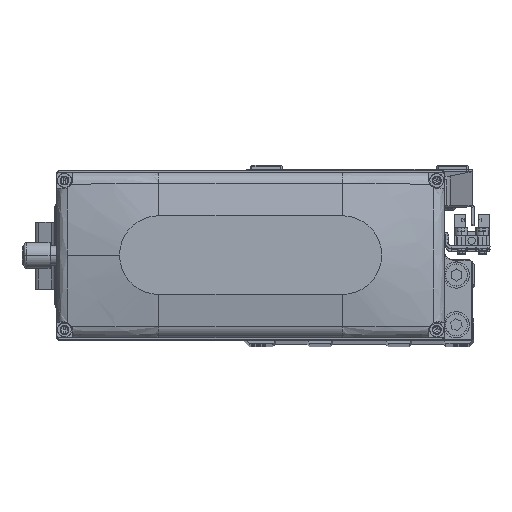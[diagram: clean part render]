
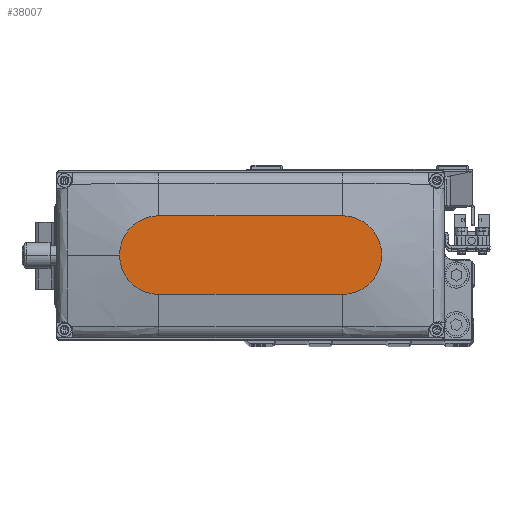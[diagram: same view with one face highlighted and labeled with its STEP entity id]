
A CAD part, top view. The second image highlights one B-rep face of the part: STEP entity #38007.
In plain terms, the highlighted planar face has unit normal (0, 0, 1).
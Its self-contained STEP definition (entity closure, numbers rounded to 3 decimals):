
#748 = DIRECTION ( 'NONE',  ( 1., 0., 0. ) ) ;
#982 = VERTEX_POINT ( 'NONE', #19645 ) ;
#3961 = VERTEX_POINT ( 'NONE', #34379 ) ;
#4483 = PLANE ( 'NONE',  #32718 ) ;
#7877 = CARTESIAN_POINT ( 'NONE',  ( -35., 15., 35. ) ) ;
#10798 = VERTEX_POINT ( 'NONE', #7877 ) ;
#10949 = CARTESIAN_POINT ( 'NONE',  ( 35., -15., 35. ) ) ;
#13249 = DIRECTION ( 'NONE',  ( 0., 0., 1. ) ) ;
#14194 = DIRECTION ( 'NONE',  ( 0., 0., 1. ) ) ;
#14421 = DIRECTION ( 'NONE',  ( 0., 0., 1. ) ) ;
#14711 = LINE ( 'NONE', #29905, #19675 ) ;
#15463 = LINE ( 'NONE', #30664, #20780 ) ;
#16194 = CIRCLE ( 'NONE', #44071, 15. ) ;
#18026 = EDGE_CURVE ( 'NONE', #10798, #982, #46707, .T. ) ;
#19645 = CARTESIAN_POINT ( 'NONE',  ( -35., -15., 35. ) ) ;
#19675 = VECTOR ( 'NONE', #45136, 1000. ) ;
#19687 = CARTESIAN_POINT ( 'NONE',  ( 0., 0., 35. ) ) ;
#19853 = ORIENTED_EDGE ( 'NONE', *, *, #18026, .T. ) ;
#20320 = EDGE_CURVE ( 'NONE', #3961, #38796, #21366, .T. ) ;
#20399 = VERTEX_POINT ( 'NONE', #10949 ) ;
#20780 = VECTOR ( 'NONE', #45885, 1000. ) ;
#21366 = CIRCLE ( 'NONE', #49240, 15. ) ;
#25204 = AXIS2_PLACEMENT_3D ( 'NONE', #47423, #13249, #28453 ) ;
#27134 = CARTESIAN_POINT ( 'NONE',  ( 35., 15., 35. ) ) ;
#28453 = DIRECTION ( 'NONE',  ( 1., 0., 0. ) ) ;
#28460 = ORIENTED_EDGE ( 'NONE', *, *, #36642, .T. ) ;
#29209 = ORIENTED_EDGE ( 'NONE', *, *, #30785, .T. ) ;
#29403 = DIRECTION ( 'NONE',  ( 1., 0., 0. ) ) ;
#29625 = DIRECTION ( 'NONE',  ( 1., 0., 0. ) ) ;
#29905 = CARTESIAN_POINT ( 'NONE',  ( -35., 15., 35. ) ) ;
#30664 = CARTESIAN_POINT ( 'NONE',  ( -35., -15., 35. ) ) ;
#30785 = EDGE_CURVE ( 'NONE', #982, #20399, #15463, .T. ) ;
#32718 = AXIS2_PLACEMENT_3D ( 'NONE', #19687, #34888, #748 ) ;
#34379 = CARTESIAN_POINT ( 'NONE',  ( 50., 0., 35. ) ) ;
#34523 = ORIENTED_EDGE ( 'NONE', *, *, #45899, .T. ) ;
#34888 = DIRECTION ( 'NONE',  ( 0., 0., 1. ) ) ;
#36642 = EDGE_CURVE ( 'NONE', #38796, #10798, #14711, .T. ) ;
#38007 = ADVANCED_FACE ( 'NONE', ( #38625 ), #4483, .T. ) ;
#38625 = FACE_OUTER_BOUND ( 'NONE', #42625, .T. ) ;
#38796 = VERTEX_POINT ( 'NONE', #27134 ) ;
#42625 = EDGE_LOOP ( 'NONE', ( #28460, #19853, #29209, #34523, #45471 ) ) ;
#44071 = AXIS2_PLACEMENT_3D ( 'NONE', #48598, #14421, #29625 ) ;
#45136 = DIRECTION ( 'NONE',  ( -1., 0., 0. ) ) ;
#45471 = ORIENTED_EDGE ( 'NONE', *, *, #20320, .T. ) ;
#45885 = DIRECTION ( 'NONE',  ( 1., 0., 0. ) ) ;
#45899 = EDGE_CURVE ( 'NONE', #20399, #3961, #16194, .T. ) ;
#46707 = CIRCLE ( 'NONE', #25204, 15. ) ;
#47423 = CARTESIAN_POINT ( 'NONE',  ( -35., 0., 35. ) ) ;
#48382 = CARTESIAN_POINT ( 'NONE',  ( 35., 0., 35. ) ) ;
#48598 = CARTESIAN_POINT ( 'NONE',  ( 35., 0., 35. ) ) ;
#49240 = AXIS2_PLACEMENT_3D ( 'NONE', #48382, #14194, #29403 ) ;
